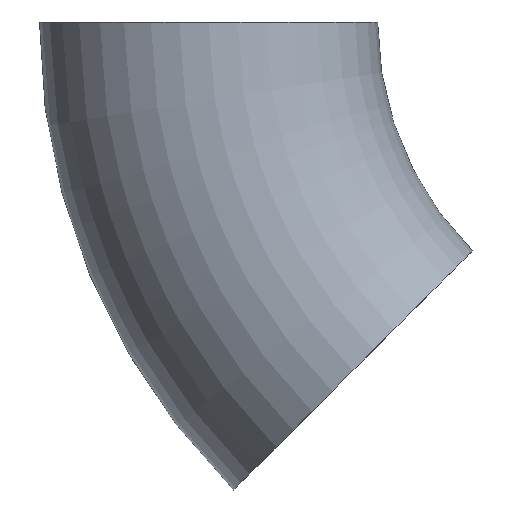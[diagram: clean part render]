
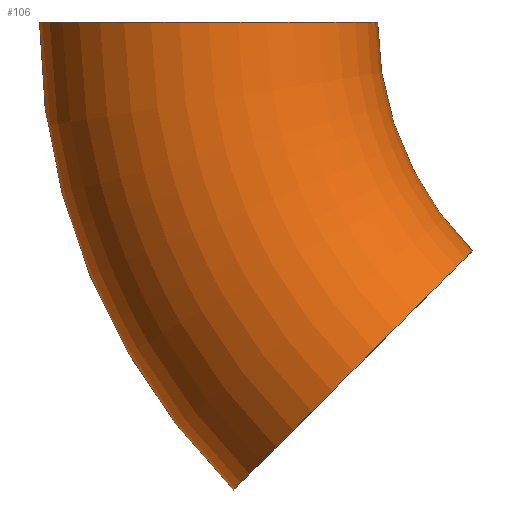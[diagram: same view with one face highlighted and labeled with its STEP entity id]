
A CAD part, front view. The second image highlights one B-rep face of the part: STEP entity #106.
In plain terms, the highlighted toroidal (fillet/blend) face has major radius 188 mm and minor radius 64.5 mm.
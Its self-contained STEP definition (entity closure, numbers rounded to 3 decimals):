
#9 = CARTESIAN_POINT ( 'NONE',  ( -178.544, 0., -178.544 ) ) ;
#23 = AXIS2_PLACEMENT_3D ( 'NONE', #121, #145, #120 ) ;
#33 = VERTEX_POINT ( 'NONE', #224 ) ;
#39 = EDGE_CURVE ( 'NONE', #111, #108, #77, .T. ) ;
#42 = EDGE_CURVE ( 'NONE', #111, #33, #164, .T. ) ;
#49 = DIRECTION ( 'NONE',  ( 0., 0., 1. ) ) ;
#56 = ORIENTED_EDGE ( 'NONE', *, *, #42, .F. ) ;
#57 = AXIS2_PLACEMENT_3D ( 'NONE', #180, #228, #49 ) ;
#75 = AXIS2_PLACEMENT_3D ( 'NONE', #143, #223, #184 ) ;
#77 = CIRCLE ( 'NONE', #23, 64.5 ) ;
#85 = AXIS2_PLACEMENT_3D ( 'NONE', #87, #125, #225 ) ;
#86 = EDGE_CURVE ( 'NONE', #33, #188, #95, .T. ) ;
#87 = CARTESIAN_POINT ( 'NONE',  ( -188., 0., 0. ) ) ;
#93 = EDGE_LOOP ( 'NONE', ( #56, #128, #232, #124 ) ) ;
#95 = CIRCLE ( 'NONE', #85, 64.5 ) ;
#102 = FACE_OUTER_BOUND ( 'NONE', #93, .T. ) ;
#106 = ADVANCED_FACE ( 'NONE', ( #102 ), #214, .T. ) ;
#108 = VERTEX_POINT ( 'NONE', #141 ) ;
#111 = VERTEX_POINT ( 'NONE', #9 ) ;
#120 = DIRECTION ( 'NONE',  ( 0.707, 0., 0.707 ) ) ;
#121 = CARTESIAN_POINT ( 'NONE',  ( -132.936, 0., -132.936 ) ) ;
#124 = ORIENTED_EDGE ( 'NONE', *, *, #86, .F. ) ;
#125 = DIRECTION ( 'NONE',  ( 0., 0., 1. ) ) ;
#128 = ORIENTED_EDGE ( 'NONE', *, *, #39, .T. ) ;
#138 = AXIS2_PLACEMENT_3D ( 'NONE', #249, #193, #230 ) ;
#141 = CARTESIAN_POINT ( 'NONE',  ( -87.328, 0., -87.328 ) ) ;
#143 = CARTESIAN_POINT ( 'NONE',  ( 0., 0., 0. ) ) ;
#145 = DIRECTION ( 'NONE',  ( -0.707, 0., 0.707 ) ) ;
#147 = CARTESIAN_POINT ( 'NONE',  ( -123.5, 0., 0. ) ) ;
#164 = CIRCLE ( 'NONE', #57, 252.5 ) ;
#180 = CARTESIAN_POINT ( 'NONE',  ( 0., 0., 0. ) ) ;
#184 = DIRECTION ( 'NONE',  ( 0., 0., 1. ) ) ;
#188 = VERTEX_POINT ( 'NONE', #147 ) ;
#193 = DIRECTION ( 'NONE',  ( 0., 1., 0. ) ) ;
#214 = TOROIDAL_SURFACE ( 'NONE', #75, 188., 64.5 ) ;
#219 = EDGE_CURVE ( 'NONE', #108, #188, #252, .T. ) ;
#223 = DIRECTION ( 'NONE',  ( 0., 1., 0. ) ) ;
#224 = CARTESIAN_POINT ( 'NONE',  ( -252.5, 0., 0. ) ) ;
#225 = DIRECTION ( 'NONE',  ( 1., 0., 0. ) ) ;
#228 = DIRECTION ( 'NONE',  ( 0., 1., 0. ) ) ;
#230 = DIRECTION ( 'NONE',  ( 0., 0., 1. ) ) ;
#232 = ORIENTED_EDGE ( 'NONE', *, *, #219, .T. ) ;
#249 = CARTESIAN_POINT ( 'NONE',  ( 0., 0., 0. ) ) ;
#252 = CIRCLE ( 'NONE', #138, 123.5 ) ;
